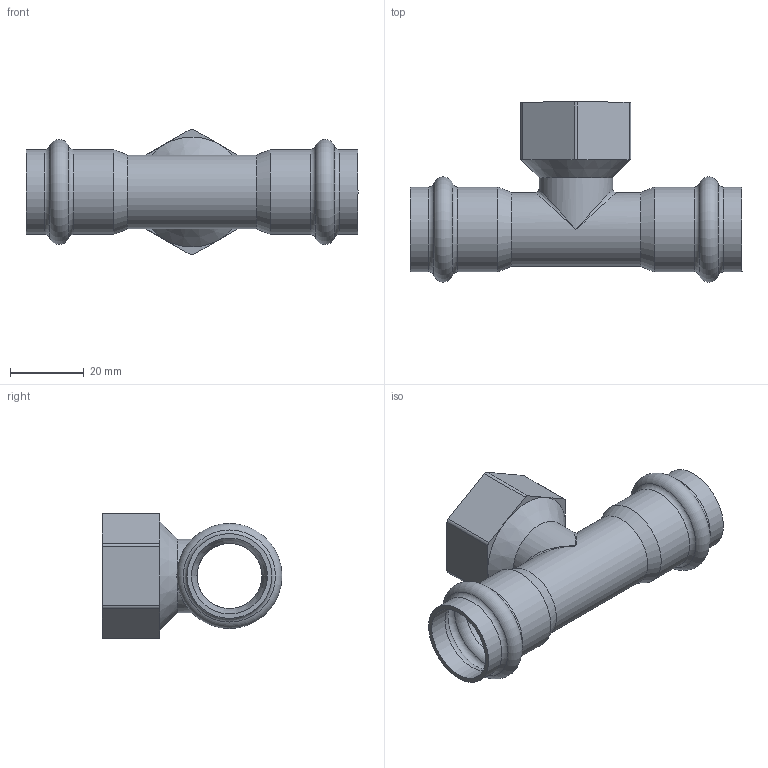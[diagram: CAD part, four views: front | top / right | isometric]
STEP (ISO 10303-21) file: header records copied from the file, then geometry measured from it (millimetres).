
FILE_DESCRIPTION(/* description */ (''),/* implementation_level */ '2;1');
FILE_NAME(/* name */ '51267010101.stp',/* time_stamp */ '2020-06-22T14:52:10+08:00',/* author */ (''),/* organization */ (''),/* preprocessor_version */ 'ST-DEVELOPER v11',/* originating_system */ 'SIEMENS PLM Software NX 7.5',/* authorisation */ '');
FILE_SCHEMA (('CONFIG_CONTROL_DESIGN'));
Length unit declared in the file: millimetre
Products named in the file (1): Admi4F60b48h
Bounding box: 90 x 48.78 x 34.1 mm (x, y, z)
Volume: 13236.9 mm3; surface area: 17104.2 mm2
Topology: 1 solids, 1 shells, 57 faces, 129 edges, 71 vertices
Faces by surface type: cylinder 19, plane 17, torus 12, cone 7, bspline 2
Full cylindrical faces by diameter (mm): 17.6 x1, 18.4 x1, 20 x2, 20.6 x4, 23 x4, 24.117 x1
Entity records: 1592 total; most frequent: CARTESIAN_POINT 366, DIRECTION 258, ORIENTED_EDGE 182, AXIS2_PLACEMENT_3D 113, EDGE_LOOP 94, EDGE_CURVE 91, FACE_BOUND 72, VERTEX_POINT 69
